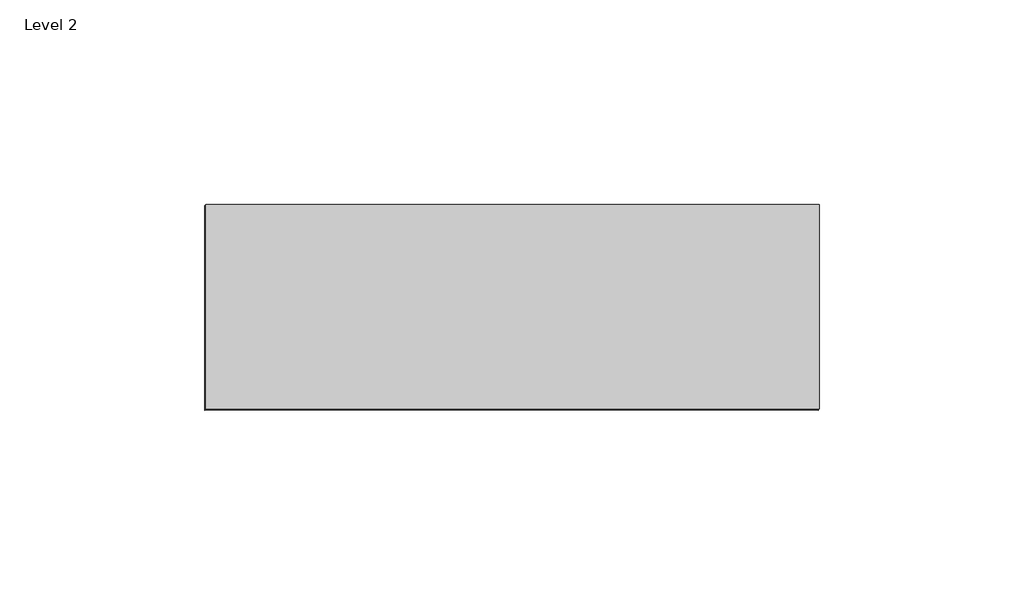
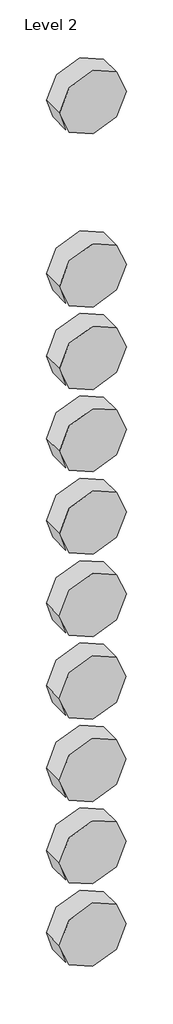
# One storey: 10 proxies.
"""IFC4 building model written with IfcOpenShell, lengths in millimetres."""

from ifc_helpers import new_model, si_unit, origin, place, context, project, spatial, transform, mapped, element, save
from components import materialmodel_materialmodel_17b3a4fc

model = new_model("IFC4")

# Units and contexts
model_context = context("Model", 3, world=origin())
ifc_project = project(units=[si_unit("LENGTHUNIT", "METRE", prefix="MILLI")], contexts=[model_context])

# Site, building, storey
site = spatial("IfcSite", under=ifc_project)
building = spatial("IfcBuilding", under=site)
storey = spatial("IfcBuildingStorey", under=building, Name="Level 2", Elevation=4000.0)

# Proxies
placement = place(None, origin())
materialmodel_materialmodel_shape = materialmodel_materialmodel_17b3a4fc(model_context)
element("IfcBuildingElementProxy", 1, Name="MaterialModel : MaterialModel", ObjectType="MaterialModel : MaterialModel", at=placement, inside=storey, context=model_context, shape_type="MappedRepresentation", body=[
    mapped(materialmodel_materialmodel_shape, transform((-5560.2216872, 2209.4764129, 922.9437314), x_axis=(1.0, 0.0, 0.0), y_axis=(0.0, 1.0, 0.0), z_axis=(0.0, 0.0, 1.0))),
])
element("IfcBuildingElementProxy", 2, Name="MaterialModel : MaterialModel", ObjectType="MaterialModel : MaterialModel", at=placement, inside=storey, context=model_context, shape_type="MappedRepresentation", body=[
    mapped(materialmodel_materialmodel_shape, transform((-5560.2513951, 2209.4764129, 727.9733243), x_axis=(1.0, 0.0, 0.0), y_axis=(0.0, 1.0, 0.0), z_axis=(0.0, 0.0, 1.0))),
])
element("IfcBuildingElementProxy", 3, Name="MaterialModel : MaterialModel", ObjectType="MaterialModel : MaterialModel", at=placement, inside=storey, context=model_context, shape_type="MappedRepresentation", body=[
    mapped(materialmodel_materialmodel_shape, transform((-5560.2811031, 2209.4764129, 533.0029172), x_axis=(1.0, 0.0, 0.0), y_axis=(0.0, 1.0, 0.0), z_axis=(0.0, 0.0, 1.0))),
])
element("IfcBuildingElementProxy", 4, Name="MaterialModel : MaterialModel", ObjectType="MaterialModel : MaterialModel", at=placement, inside=storey, context=model_context, shape_type="MappedRepresentation", body=[
    mapped(materialmodel_materialmodel_shape, transform((-5560.3108111, 2209.4764129, 338.0325101), x_axis=(1.0, 0.0, 0.0), y_axis=(0.0, 1.0, 0.0), z_axis=(0.0, 0.0, 1.0))),
])
element("IfcBuildingElementProxy", 5, Name="MaterialModel : MaterialModel", ObjectType="MaterialModel : MaterialModel", at=placement, inside=storey, context=model_context, shape_type="MappedRepresentation", body=[
    mapped(materialmodel_materialmodel_shape, transform((-5560.3405191, 2209.4764129, 143.0621031), x_axis=(1.0, 0.0, 0.0), y_axis=(0.0, 1.0, 0.0), z_axis=(0.0, 0.0, 1.0))),
])
element("IfcBuildingElementProxy", 6, Name="MaterialModel : MaterialModel", ObjectType="MaterialModel : MaterialModel", at=placement, inside=storey, context=model_context, shape_type="MappedRepresentation", body=[
    mapped(materialmodel_materialmodel_shape, transform((-5560.1325632, 2209.4764129, 1332.8549526), x_axis=(1.0, 0.0, 0.0), y_axis=(0.0, 1.0, 0.0), z_axis=(0.0, 0.0, 1.0))),
])
element("IfcBuildingElementProxy", 7, Name="MaterialModel : MaterialModel", ObjectType="MaterialModel : MaterialModel", at=placement, inside=storey, context=model_context, shape_type="MappedRepresentation", body=[
    mapped(materialmodel_materialmodel_shape, transform((-5560.3999351, 2209.4764129, -51.908304), x_axis=(1.0, 0.0, 0.0), y_axis=(0.0, 1.0, 0.0), z_axis=(0.0, 0.0, 1.0))),
])
element("IfcBuildingElementProxy", 8, Name="MaterialModel : MaterialModel", ObjectType="MaterialModel : MaterialModel", at=placement, inside=storey, context=model_context, shape_type="MappedRepresentation", body=[
    mapped(materialmodel_materialmodel_shape, transform((-5560.4591553, 2209.4764129, -246.8788853), x_axis=(1.0, 0.0, 0.0), y_axis=(0.0, 1.0, 0.0), z_axis=(0.0, 0.0, 1.0))),
])
element("IfcBuildingElementProxy", 9, Name="MaterialModel : MaterialModel", ObjectType="MaterialModel : MaterialModel", at=placement, inside=storey, context=model_context, shape_type="MappedRepresentation", body=[
    mapped(materialmodel_materialmodel_shape, transform((-5560.4593511, 2209.4764129, -441.8491182), x_axis=(1.0, 0.0, 0.0), y_axis=(0.0, 1.0, 0.0), z_axis=(0.0, 0.0, 1.0))),
])
element("IfcBuildingElementProxy", 10, Name="MaterialModel : MaterialModel", ObjectType="MaterialModel : MaterialModel", at=placement, inside=storey, context=model_context, shape_type="MappedRepresentation", body=[
    mapped(materialmodel_materialmodel_shape, transform((-5560.4571978, 2209.4764129, -636.8193372), x_axis=(1.0, 0.0, 0.0), y_axis=(0.0, 1.0, 0.0), z_axis=(0.0, 0.0, 1.0))),
])

save(model, "model.ifc")
